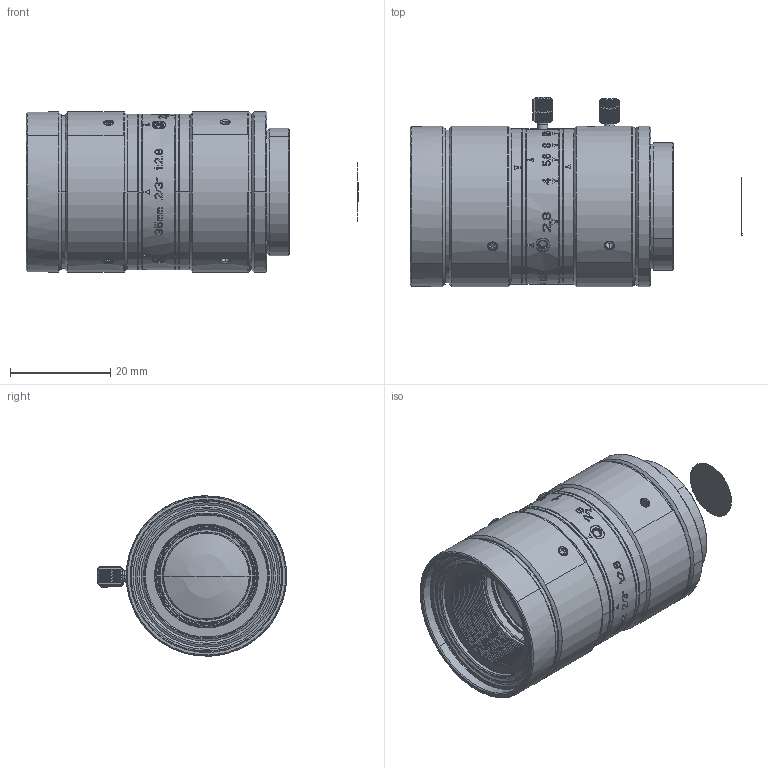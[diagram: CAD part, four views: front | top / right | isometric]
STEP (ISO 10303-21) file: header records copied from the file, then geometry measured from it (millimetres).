
FILE_DESCRIPTION((''),'2;1');
FILE_NAME('MVL-MF3528M-8MP','2021-01-21T15:10:32',('dihaoping'),(''),'CREO PARAMETRIC BY PTC INC, 2017260','CREO PARAMETRIC BY PTC INC, 2017260','');
FILE_SCHEMA(('CONFIG_CONTROL_DESIGN'));
Products named in the file (1): MVL-MF3528M-8MP
Bounding box: 66.25 x 37.76 x 32 mm (x, y, z)
Volume: 34619.3 mm3; surface area: 10975.1 mm2
Topology: 2 solids, 34 shells, 1706 faces, 4775 edges, 3176 vertices
Faces by surface type: plane 1205, cylinder 343, cone 80, bspline 36, extrusion 32, torus 6, sphere 4
Entity records: 64475 total; most frequent: CARTESIAN_POINT 23903, ORIENTED_EDGE 9426, DIRECTION 6848, EDGE_CURVE 4771, VERTEX_POINT 3176, AXIS2_PLACEMENT_3D 2426, B_SPLINE_CURVE_WITH_KNOTS 2052, VECTOR 1996
